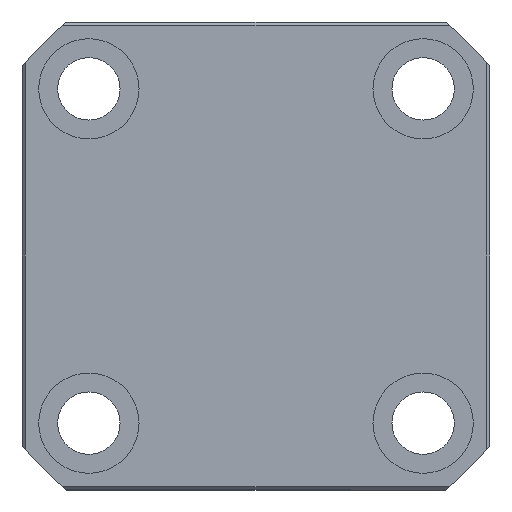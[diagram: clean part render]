
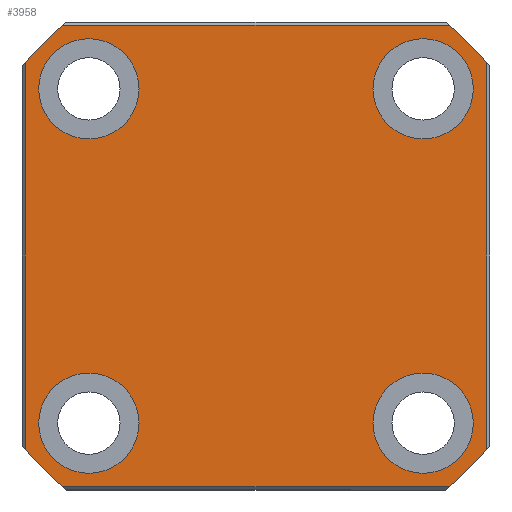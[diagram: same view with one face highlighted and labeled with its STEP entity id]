
A CAD part, front view. The second image highlights one B-rep face of the part: STEP entity #3958.
In plain terms, the highlighted planar face has unit normal (0, -1, 0).
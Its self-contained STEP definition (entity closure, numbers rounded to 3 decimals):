
#3958=ADVANCED_FACE('',(#4822,#4823,#4824,#4825,#4826),#4449,.F.);
#4449=PLANE('',#12897);
#4822=FACE_BOUND('',#5027,.T.);
#4823=FACE_BOUND('',#5028,.T.);
#4824=FACE_BOUND('',#5029,.T.);
#4825=FACE_BOUND('',#5030,.T.);
#4826=FACE_BOUND('',#5031,.T.);
#5027=EDGE_LOOP('',(#7641));
#5028=EDGE_LOOP('',(#7642));
#5029=EDGE_LOOP('',(#7643));
#5030=EDGE_LOOP('',(#7644));
#5031=EDGE_LOOP('',(#7645,#7646,#7647,#7648,#7649,#7650,#7651,#7652));
#5621=LINE('',#16106,#6521);
#5622=LINE('',#16110,#6522);
#5623=LINE('',#16114,#6523);
#5624=LINE('',#16118,#6524);
#6521=VECTOR('',#13476,1.);
#6522=VECTOR('',#13479,1.);
#6523=VECTOR('',#13482,1.);
#6524=VECTOR('',#13485,1.);
#7641=ORIENTED_EDGE('',*,*,#11346,.F.);
#7642=ORIENTED_EDGE('',*,*,#11348,.F.);
#7643=ORIENTED_EDGE('',*,*,#11350,.F.);
#7644=ORIENTED_EDGE('',*,*,#11352,.F.);
#7645=ORIENTED_EDGE('',*,*,#11434,.F.);
#7646=ORIENTED_EDGE('',*,*,#11435,.T.);
#7647=ORIENTED_EDGE('',*,*,#11436,.F.);
#7648=ORIENTED_EDGE('',*,*,#11437,.T.);
#7649=ORIENTED_EDGE('',*,*,#11438,.F.);
#7650=ORIENTED_EDGE('',*,*,#11439,.T.);
#7651=ORIENTED_EDGE('',*,*,#11440,.F.);
#7652=ORIENTED_EDGE('',*,*,#11441,.T.);
#10346=VERTEX_POINT('',#15600);
#10348=VERTEX_POINT('',#15605);
#10350=VERTEX_POINT('',#15610);
#10352=VERTEX_POINT('',#15615);
#10433=VERTEX_POINT('',#16104);
#10434=VERTEX_POINT('',#16105);
#10435=VERTEX_POINT('',#16107);
#10436=VERTEX_POINT('',#16109);
#10437=VERTEX_POINT('',#16111);
#10438=VERTEX_POINT('',#16113);
#10439=VERTEX_POINT('',#16115);
#10440=VERTEX_POINT('',#16117);
#11346=EDGE_CURVE('',#10346,#10346,#12737,.T.);
#11348=EDGE_CURVE('',#10348,#10348,#12739,.T.);
#11350=EDGE_CURVE('',#10350,#10350,#12741,.T.);
#11352=EDGE_CURVE('',#10352,#10352,#12743,.T.);
#11434=EDGE_CURVE('',#10433,#10434,#12767,.T.);
#11435=EDGE_CURVE('',#10433,#10435,#5621,.T.);
#11436=EDGE_CURVE('',#10436,#10435,#12768,.T.);
#11437=EDGE_CURVE('',#10436,#10437,#5622,.T.);
#11438=EDGE_CURVE('',#10438,#10437,#12769,.T.);
#11439=EDGE_CURVE('',#10438,#10439,#5623,.T.);
#11440=EDGE_CURVE('',#10440,#10439,#12770,.T.);
#11441=EDGE_CURVE('',#10440,#10434,#5624,.T.);
#12737=CIRCLE('',#12846,4.5);
#12739=CIRCLE('',#12849,4.5);
#12741=CIRCLE('',#12852,4.5);
#12743=CIRCLE('',#12855,4.5);
#12767=CIRCLE('',#12893,27.);
#12768=CIRCLE('',#12894,27.);
#12769=CIRCLE('',#12895,27.);
#12770=CIRCLE('',#12896,27.);
#12846=AXIS2_PLACEMENT_3D('',#15599,#13363,#13364);
#12849=AXIS2_PLACEMENT_3D('',#15604,#13369,#13370);
#12852=AXIS2_PLACEMENT_3D('',#15609,#13375,#13376);
#12855=AXIS2_PLACEMENT_3D('',#15614,#13381,#13382);
#12893=AXIS2_PLACEMENT_3D('',#16103,#13474,#13475);
#12894=AXIS2_PLACEMENT_3D('',#16108,#13477,#13478);
#12895=AXIS2_PLACEMENT_3D('',#16112,#13480,#13481);
#12896=AXIS2_PLACEMENT_3D('',#16116,#13483,#13484);
#12897=AXIS2_PLACEMENT_3D('',#16119,#13486,#13487);
#13363=DIRECTION('',(0.,-1.,0.));
#13364=DIRECTION('',(0.,0.,1.));
#13369=DIRECTION('',(0.,-1.,0.));
#13370=DIRECTION('',(0.,0.,1.));
#13375=DIRECTION('',(0.,-1.,0.));
#13376=DIRECTION('',(0.,0.,1.));
#13381=DIRECTION('',(0.,-1.,0.));
#13382=DIRECTION('',(0.,0.,1.));
#13474=DIRECTION('',(0.,1.,0.));
#13475=DIRECTION('',(0.,0.,-1.));
#13476=DIRECTION('',(1.,0.,0.));
#13477=DIRECTION('',(0.,1.,0.));
#13478=DIRECTION('',(0.,0.,-1.));
#13479=DIRECTION('',(0.,0.,1.));
#13480=DIRECTION('',(0.,1.,0.));
#13481=DIRECTION('',(0.,0.,-1.));
#13482=DIRECTION('',(-1.,0.,0.));
#13483=DIRECTION('',(0.,1.,0.));
#13484=DIRECTION('',(0.,0.,-1.));
#13485=DIRECTION('',(0.,0.,-1.));
#13486=DIRECTION('',(0.,1.,0.));
#13487=DIRECTION('',(0.,0.,1.));
#15599=CARTESIAN_POINT('',(-113.19,-50.426,27.13));
#15600=CARTESIAN_POINT('',(-113.19,-50.426,31.63));
#15604=CARTESIAN_POINT('',(-113.19,-50.426,-2.87));
#15605=CARTESIAN_POINT('',(-113.19,-50.426,1.63));
#15609=CARTESIAN_POINT('',(-143.19,-50.426,-2.87));
#15610=CARTESIAN_POINT('',(-143.19,-50.426,1.63));
#15614=CARTESIAN_POINT('',(-143.19,-50.426,27.13));
#15615=CARTESIAN_POINT('',(-143.19,-50.426,31.63));
#16103=CARTESIAN_POINT('',(-128.19,-50.426,12.13));
#16104=CARTESIAN_POINT('',(-145.526,-50.426,-8.57));
#16105=CARTESIAN_POINT('',(-148.89,-50.426,-5.205));
#16106=CARTESIAN_POINT('',(-128.19,-50.426,-8.57));
#16107=CARTESIAN_POINT('',(-110.855,-50.426,-8.57));
#16108=CARTESIAN_POINT('',(-128.19,-50.426,12.13));
#16109=CARTESIAN_POINT('',(-107.49,-50.426,-5.205));
#16110=CARTESIAN_POINT('',(-107.49,-50.426,12.13));
#16111=CARTESIAN_POINT('',(-107.49,-50.426,29.466));
#16112=CARTESIAN_POINT('',(-128.19,-50.426,12.13));
#16113=CARTESIAN_POINT('',(-110.855,-50.426,32.83));
#16114=CARTESIAN_POINT('',(-128.19,-50.426,32.83));
#16115=CARTESIAN_POINT('',(-145.526,-50.426,32.83));
#16116=CARTESIAN_POINT('',(-128.19,-50.426,12.13));
#16117=CARTESIAN_POINT('',(-148.89,-50.426,29.466));
#16118=CARTESIAN_POINT('',(-148.89,-50.426,12.13));
#16119=CARTESIAN_POINT('',(-128.19,-50.426,12.13));
